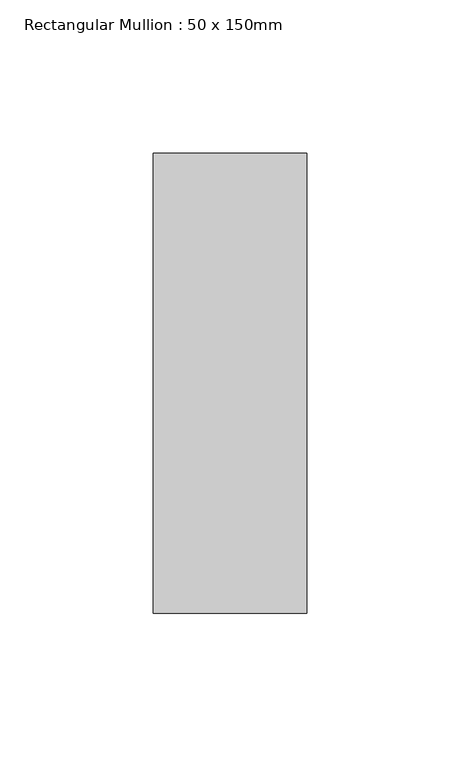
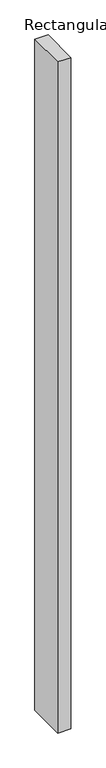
"""IFC4 building model written with IfcOpenShell, lengths in millimetres: member geometry, Rectangular Mullion : 50 x 150mm."""

import ifcopenshell
import ifcopenshell.guid

model = None  # the IFC model being written
_history = None  # IfcOwnerHistory: only IFC2X3 demands one
_inside = {}  # id of a spatial element -> (the spatial element, [elements in it])
_under = {}  # id of a project, library or spatial element -> (it, [spatial elements below it])
_declared = {}  # id of a project -> (the project, [libraries it declares])
_typed = {}  # id of a type object -> (the type object, [elements of that type])
_made_of = {}  # id of a material, layer set ... -> (it, [elements and type objects made of it])


def new_model(schema):
    """Start an empty IFC model of exactly this schema.

    Asked for "IFC4X3", IfcOpenShell would pick the latest addendum, in which some entities
    have other attributes; the version numbers below select the first issue.
    IFC2X3 requires an IfcOwnerHistory on every rooted entity: one is made here for all.
    """
    global model, _history
    if schema == "IFC4X3":
        model = ifcopenshell.file(schema_version=(4, 3, 0, 0))
    else:
        model = ifcopenshell.file(schema=schema)
    _inside.clear()
    _under.clear()
    _declared.clear()
    _typed.clear()
    _made_of.clear()
    _history = None
    if model.schema == "IFC2X3":
        org = make("IfcOrganization", Name="unknown")
        user = make(
            "IfcPersonAndOrganization",
            ThePerson=make("IfcPerson", FamilyName="unknown"),
            TheOrganization=org,
        )
        app = make(
            "IfcApplication",
            ApplicationDeveloper=org,
            Version="unknown",
            ApplicationFullName="unknown",
            ApplicationIdentifier="unknown",
        )
        _history = make(
            "IfcOwnerHistory",
            OwningUser=user,
            OwningApplication=app,
            ChangeAction="ADDED",
            CreationDate=0,
        )
    return model


def make(cls, **values):
    """One entity of the class cls with the attributes given. An attribute that is None is left unset."""
    return model.create_entity(
        cls, **{name: value for name, value in values.items() if value is not None}
    )


def rooted(cls, **values):
    """An entity with a GlobalId (a new one), such as an element, a storey or a relation."""
    return make(cls, GlobalId=ifcopenshell.guid.new(), OwnerHistory=_history, **values)


def si_unit(unit_type, name, prefix=None):
    """IfcSIUnit, for example si_unit("LENGTHUNIT", "METRE", prefix="MILLI")."""
    return make("IfcSIUnit", UnitType=unit_type, Prefix=prefix, Name=name)


def assignment(units):
    """IfcUnitAssignment: the units of a project."""
    return None if units is None else make("IfcUnitAssignment", Units=units)


def point(xyz):
    """IfcCartesianPoint."""
    return None if xyz is None else make("IfcCartesianPoint", Coordinates=xyz)


def direction(xyz):
    """IfcDirection."""
    return None if xyz is None else make("IfcDirection", DirectionRatios=xyz)


def frame(location, z_axis=None, x_axis=None):
    """IfcAxis2Placement3D, a coordinate frame: its origin and axes. An axis left out is left unset."""
    return make(
        "IfcAxis2Placement3D",
        Location=point(location),
        Axis=direction(z_axis),
        RefDirection=direction(x_axis),
    )


def origin():
    """The frame at (0, 0, 0) with its axes left unset."""
    return frame((0.0, 0.0, 0.0))


def place(relative_to, where):
    """IfcLocalPlacement: puts the frame where relative to a parent placement (None: the world)."""
    return make(
        "IfcLocalPlacement", PlacementRelTo=relative_to, RelativePlacement=where
    )


def context(
    kind, dimensions, precision=None, world=None, true_north=None, identifier=None
):
    """IfcGeometricRepresentationContext, for example the 3D "Model" context."""
    return make(
        "IfcGeometricRepresentationContext",
        ContextIdentifier=identifier,
        ContextType=kind,
        CoordinateSpaceDimension=dimensions,
        Precision=precision,
        WorldCoordinateSystem=world,
        TrueNorth=true_north,
    )


def project(units=None, contexts=None):
    """IfcProject with its units and contexts."""
    return rooted(
        "IfcProject",
        Name="project",
        RepresentationContexts=contexts,
        UnitsInContext=assignment(units),
    )


def spatial(cls, under=None, at=None, **own):
    """A site, building, storey or space (cls), placed at a placement, below another one or the project."""
    s = rooted(cls, ObjectPlacement=at, **own)
    if under is not None:
        _under.setdefault(under.id(), (under, []))[1].append(s)
    return s


def polyline(points):
    """IfcPolyline through the points."""
    return make("IfcPolyline", Points=[point(p) for p in points])


def outline(outer, holes=None, kind="AREA"):
    """IfcArbitraryClosedProfileDef: a profile drawn as a closed curve; with holes, ...WithVoids."""
    if holes is None:
        return make("IfcArbitraryClosedProfileDef", ProfileType=kind, OuterCurve=outer)
    return make(
        "IfcArbitraryProfileDefWithVoids",
        ProfileType=kind,
        OuterCurve=outer,
        InnerCurves=holes,
    )


def extrude(swept, where, along, depth):
    """IfcExtrudedAreaSolid: the profile swept, set in the frame where, extruded along a direction by depth."""
    return make(
        "IfcExtrudedAreaSolid",
        SweptArea=swept,
        Position=where,
        ExtrudedDirection=direction(along),
        Depth=depth,
    )


def shape(context_of_items, identifier, shape_type, items):
    """IfcShapeRepresentation: the items that make up one representation, for example the "Body"."""
    return make(
        "IfcShapeRepresentation",
        ContextOfItems=context_of_items,
        RepresentationIdentifier=identifier,
        RepresentationType=shape_type,
        Items=items,
    )


def source(mapping_origin, context_of_items, identifier, shape_type, items):
    """IfcRepresentationMap: a shape defined once, which mapped items show again and again."""
    return make(
        "IfcRepresentationMap",
        MappingOrigin=mapping_origin,
        MappedRepresentation=shape(context_of_items, identifier, shape_type, items),
    )


def transform(
    local_origin,
    x_axis=None,
    y_axis=None,
    z_axis=None,
    scale=None,
    scale2=None,
    scale3=None,
    uniform=True,
):
    """IfcCartesianTransformationOperator3D, or its non-uniform kind. x_axis, y_axis, z_axis: its Axis1, 2, 3."""
    if uniform:
        return make(
            "IfcCartesianTransformationOperator3D",
            Axis1=direction(x_axis),
            Axis2=direction(y_axis),
            LocalOrigin=point(local_origin),
            Scale=scale,
            Axis3=direction(z_axis),
        )
    return make(
        "IfcCartesianTransformationOperator3DnonUniform",
        Axis1=direction(x_axis),
        Axis2=direction(y_axis),
        LocalOrigin=point(local_origin),
        Scale=scale,
        Axis3=direction(z_axis),
        Scale2=scale2,
        Scale3=scale3,
    )


def mapped(mapping_source, mapping_target):
    """IfcMappedItem: shows the shape of a source again, moved by a transform."""
    return make(
        "IfcMappedItem", MappingSource=mapping_source, MappingTarget=mapping_target
    )


def made_of(thing, what):
    """Note that an element or type object is made of a material, layer set ...; save() writes the relation."""
    if what is not None:
        _made_of.setdefault(what.id(), (what, []))[1].append(thing)
    return thing


def element(
    cls,
    number,
    at=None,
    inside=None,
    cuts=None,
    type_object=None,
    material=None,
    context=None,
    identifier="Body",
    shape_type=None,
    held_by="IfcProductDefinitionShape",
    body=None,
    shapes=None,
    **own,
):
    """One element of the class cls, such as IfcWall. Its Tag is "e" and its number.

    at: its placement. inside: the storey or other place that contains it. cuts: it is an
    opening in that element (IfcRelVoidsElement). A single representation is given by context,
    identifier, shape_type and body (its items); several are given by shapes. held_by: the class
    of the entity that holds the representations. save() writes the other relations.
    """
    e = rooted(cls, Tag="e%d" % number, ObjectPlacement=at, **own)
    if body is not None:
        shapes = [shape(context, identifier, shape_type, body)]
    if shapes is not None:
        e.Representation = make(held_by, Representations=shapes)
    if inside is not None:
        _inside.setdefault(inside.id(), (inside, []))[1].append(e)
    if cuts is not None:
        rooted(
            "IfcRelVoidsElement", RelatingBuildingElement=cuts, RelatedOpeningElement=e
        )
    if type_object is not None:
        _typed.setdefault(type_object.id(), (type_object, []))[1].append(e)
    return made_of(e, material)


def aggregate(whole, parts):
    """IfcRelAggregates: a whole, such as a stair, and the parts it consists of."""
    return rooted("IfcRelAggregates", RelatingObject=whole, RelatedObjects=parts)


def save(model, path):
    """Write the relations noted so far, then the file.

    IfcRelAggregates (storeys below a building ...), IfcRelContainedInSpatialStructure (elements
    in a storey), IfcRelDefinesByType, IfcRelAssociatesMaterial and IfcRelDeclares: one each for
    every whole, place, type object, material and project.
    """
    for whole, parts in _under.values():
        aggregate(whole, parts)
    for where, things in _inside.values():
        rooted(
            "IfcRelContainedInSpatialStructure",
            RelatedElements=things,
            RelatingStructure=where,
        )
    for kind, things in _typed.values():
        rooted("IfcRelDefinesByType", RelatedObjects=things, RelatingType=kind)
    for what, things in _made_of.values():
        rooted("IfcRelAssociatesMaterial", RelatedObjects=things, RelatingMaterial=what)
    for by, libraries in _declared.values():
        rooted("IfcRelDeclares", RelatingContext=by, RelatedDefinitions=libraries)
    model.write(path)


def rectangular_mullion_50_x_150mm_c631fdb4(model_context):
    return source(origin(), model_context, "Body", "SweptSolid", [
        extrude(outline(polyline([(0.0, 25.0), (0.0, -125.0), (-50.0, -125.0), (-50.0, 25.0), (0.0, 25.0)])), frame((0.0, 0.0, -2700.8896883), z_axis=(0.0, 0.0, 1.0), x_axis=(1.0, 0.0, 0.0)), (0.0, 0.0, 1.0), 2700.8896883),
    ])


if __name__ == "__main__":
    model = new_model("IFC4")
    model_context = context("Model", 3, world=origin())
    ifc_project = project(units=[si_unit("LENGTHUNIT", "METRE", prefix="MILLI")], contexts=[model_context])
    site = spatial("IfcSite", under=ifc_project)
    building = spatial("IfcBuilding", under=site)
    placement = place(None, origin())
    rectangular_mullion_50_x_150mm_shape = rectangular_mullion_50_x_150mm_c631fdb4(model_context)
    element("IfcMember", 1, ObjectType="Rectangular Mullion : 50 x 150mm", at=placement, inside=building, context=model_context, shape_type="MappedRepresentation", body=[
        mapped(rectangular_mullion_50_x_150mm_shape, transform((0.0, 0.0, 0.0), x_axis=(1.0, 0.0, 0.0), y_axis=(0.0, 1.0, 0.0), z_axis=(0.0, 0.0, 1.0))),
    ])
    save(model, "model.ifc")
